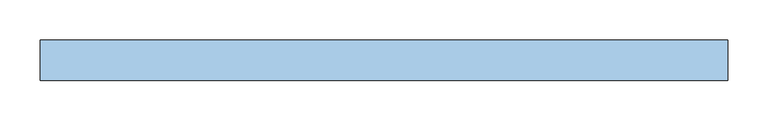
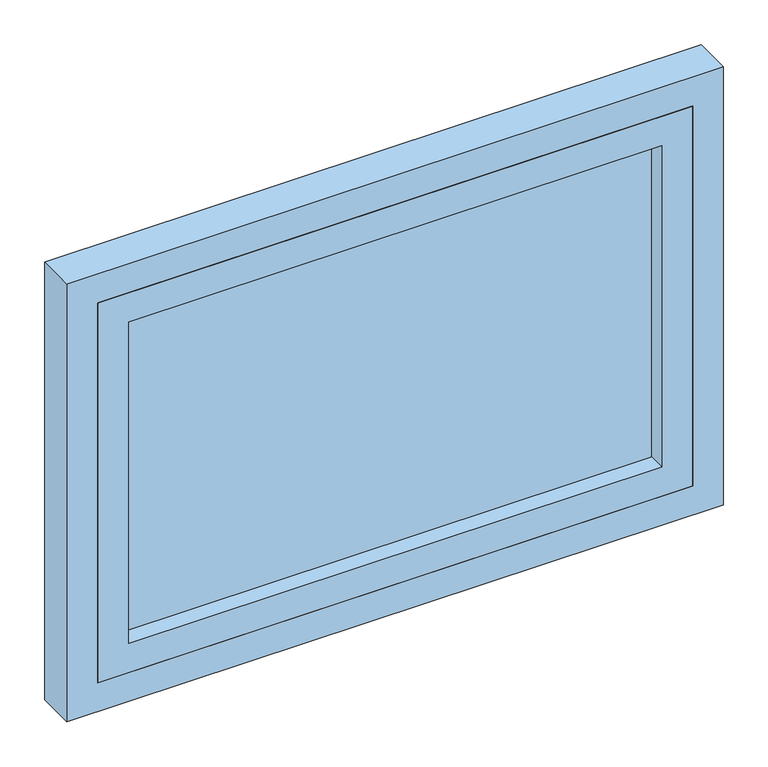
"""IFC4 building model written with IfcOpenShell, lengths in millimetres: window geometry, VENT_ALUM_PROY : VD-13 / PROY BAÑO 0.85 X 0.6."""

from ifc_helpers import new_model, si_unit, frame, origin, place, context, project, spatial, polyline, outline, extrude, source, transform, mapped, element, save


def window_73864251(model_context):
    return source(origin(), model_context, "Body", "SweptSolid", [
        extrude(outline(polyline([(840.0, -385.0), (840.0, 385.0), (1360.0, 385.0), (1360.0, -385.0), (840.0, -385.0)]), holes=[polyline([(1320.0, -345.0), (1320.0, 345.0), (880.0, 345.0), (880.0, -345.0), (1320.0, -345.0)])]), frame((0.0, -25.0, 0.0), z_axis=(0.0, 1.0, 0.0), x_axis=(0.0, 0.0, 1.0)), (0.0, 0.0, 1.0), 50.0),
        extrude(outline(polyline([(345.0, -3.0), (-345.0, -3.0), (-345.0, 3.0), (345.0, 3.0), (345.0, -3.0)])), frame((0.0, 0.0, 880.0), z_axis=(0.0, 0.0, 1.0), x_axis=(1.0, 0.0, 0.0)), (0.0, 0.0, 1.0), 440.0),
        extrude(outline(polyline([(800.0, -425.0), (800.0, 425.0), (1400.0, 425.0), (1400.0, -425.0), (800.0, -425.0)]), holes=[polyline([(1360.0, -385.0), (1360.0, 385.0), (840.0, 385.0), (840.0, -385.0), (1360.0, -385.0)])]), frame((0.0, -25.0, 0.0), z_axis=(0.0, 1.0, 0.0), x_axis=(0.0, 0.0, 1.0)), (0.0, 0.0, 1.0), 50.0),
    ])


if __name__ == "__main__":
    model = new_model("IFC4")
    model_context = context("Model", 3, world=origin())
    ifc_project = project(units=[si_unit("LENGTHUNIT", "METRE", prefix="MILLI")], contexts=[model_context])
    site = spatial("IfcSite", under=ifc_project)
    building = spatial("IfcBuilding", under=site)
    placement = place(None, origin())
    window_shape = window_73864251(model_context)
    element("IfcWindow", 1, ObjectType="VENT_ALUM_PROY : VD-13 / PROY BAÑO 0.85 X 0.6", at=placement, inside=building, context=model_context, shape_type="MappedRepresentation", body=[
        mapped(window_shape, transform((0.0, 0.0, 0.0), x_axis=(1.0, 0.0, 0.0), y_axis=(0.0, 1.0, 0.0), z_axis=(0.0, 0.0, 1.0))),
    ])
    save(model, "model.ifc")
